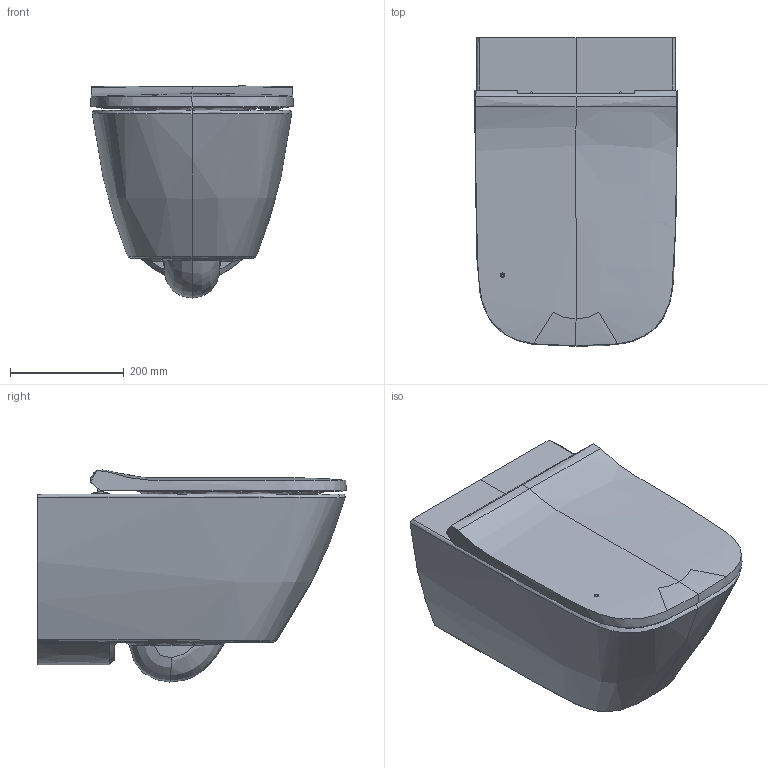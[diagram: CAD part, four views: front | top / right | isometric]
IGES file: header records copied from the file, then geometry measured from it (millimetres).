
Global section: file name: 500683; native system: Autodesk Inventor 2018; preprocessor: unknown; author: JANAN; date: 20200430.092755; units: millimetre
Bounding box: 355.99 x 541.53 x 372.24 mm (x, y, z)
Volume: 29077571.9 mm3; surface area: 1397050.7 mm2
Topology: 5 solids, 15 shells, 562 faces, 1498 edges, 972 vertices
Faces by surface type: bspline 562
